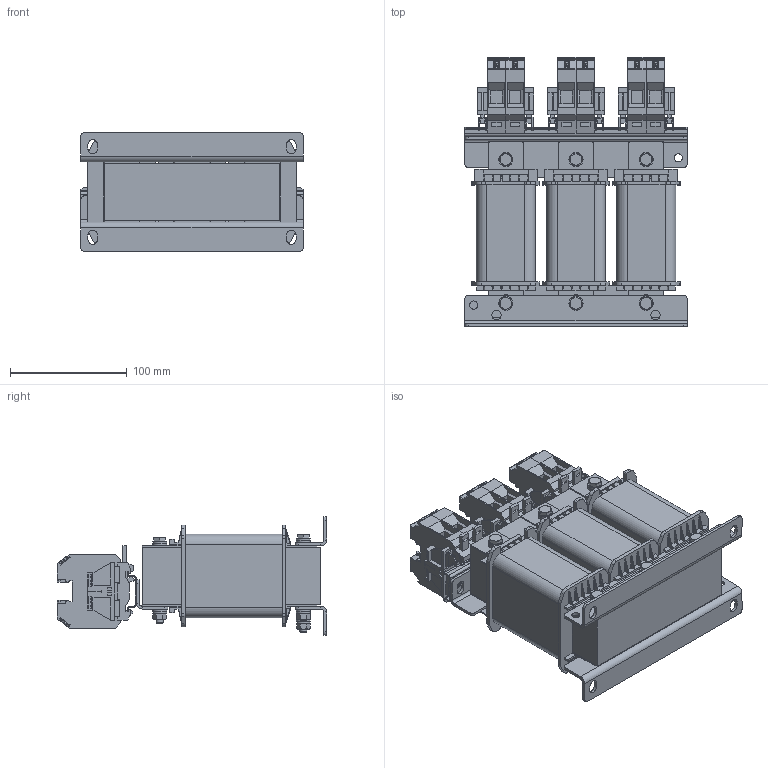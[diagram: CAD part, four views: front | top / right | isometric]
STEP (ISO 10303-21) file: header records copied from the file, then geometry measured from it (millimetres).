
FILE_DESCRIPTION (( 'STEP AP203' ), '1' );
FILE_NAME ('KDD0,75_081067_BP-31069.STEP', '2019-02-12T06:41:45', ( 'Admin' ), ( 'Microsoft' ), 'SwSTEP 2.0', 'SolidWorks 2018', '' );
FILE_SCHEMA (( 'CONFIG_CONTROL_DESIGN' ));
Length unit declared in the file: millimetre
Products named in the file (21): UI90-D56_150-30-1_1L-1LL_stand_edelst_Z-1644-00; 31069- Verschraubung Kern_Vers. Kern Abstand 56,5mm; Oberteil 9708-2S35; 31069- Spulenkörper  UI90-51,5-AK_I-Kl.F_BKV30H_Z-640-00; M6x80_DIN933_ISO 4017 - M6 x 80; 9708-2S35_Z-861-00; Kontaktscheibe 6,1mm_DIN 6798-V8.4; WKN35-U_Z-781-00; DIN127B_M6_Federring DIN 127B - A6; M6x70_DIN933_ISO 4017 - M6 x 70; 31069- Erdungsschraube; DIN 125 A6,4_Washer DIN 125 - A 6.4; EI150-150_190-170_25-13_stand_verz_Z-1765-04; KDD0,75_081067_BP-31069; Isolierbuchse M6; 31069- Wicklung; M6_DIN_934_Hexagon Nut ISO - 4032 - M6 - W - N; TS35-h=7,5_190_gelocht_verz; 31069- Kern; 31069- Verschraubung Kern_Vers. Kern Abstand 54mm; Unterteil 9708-2S35
Assembly tree (58 placements, depth 3):
  KDD0,75_081067_BP-31069
    31069- Kern
    UI90-D56_150-30-1_1L-1LL_stand_edelst_Z-1644-00  x6
    31069- Spulenkörper  UI90-51,5-AK_I-Kl.F_BKV30H_Z-640-00  x3
    EI150-150_190-170_25-13_stand_verz_Z-1765-04  x3
    31069- Wicklung  x3
    TS35-h=7,5_190_gelocht_verz
    9708-2S35_Z-861-00  x6
      Unterteil 9708-2S35
      Oberteil 9708-2S35
    WKN35-U_Z-781-00  x6
    31069- Verschraubung Kern_Vers. Kern Abstand 54mm  x3
      M6x70_DIN933_ISO 4017 - M6 x 70
      DIN 125 A6,4_Washer DIN 125 - A 6.4
      Isolierbuchse M6
      M6_DIN_934_Hexagon Nut ISO - 4032 - M6 - W - N
    31069- Verschraubung Kern_Vers. Kern Abstand 56,5mm  x2
      M6x70_DIN933_ISO 4017 - M6 x 70
      DIN 125 A6,4_Washer DIN 125 - A 6.4
      Isolierbuchse M6
      M6_DIN_934_Hexagon Nut ISO - 4032 - M6 - W - N
    31069- Erdungsschraube
      M6x80_DIN933_ISO 4017 - M6 x 80
      DIN 125 A6,4_Washer DIN 125 - A 6.4  x3
      Isolierbuchse M6
      Kontaktscheibe 6,1mm_DIN 6798-V8.4
      M6_DIN_934_Hexagon Nut ISO - 4032 - M6 - W - N  x2
      DIN127B_M6_Federring DIN 127B - A6
Bounding box: 190 x 230.6 x 101.5 mm (x, y, z)
Volume: 1810880.4 mm3; surface area: 632023 mm2
Topology: 74 solids, 74 shells, 5350 faces, 14492 edges, 9350 vertices
Faces by surface type: plane 3439, cylinder 1486, torus 158, cone 147, bspline 120
Entity records: 50199 total; most frequent: CARTESIAN_POINT 10799, ORIENTED_EDGE 7782, DIRECTION 7322, EDGE_CURVE 3891, VECTOR 2636, LINE 2636, VERTEX_POINT 2504, AXIS2_PLACEMENT_3D 2343
